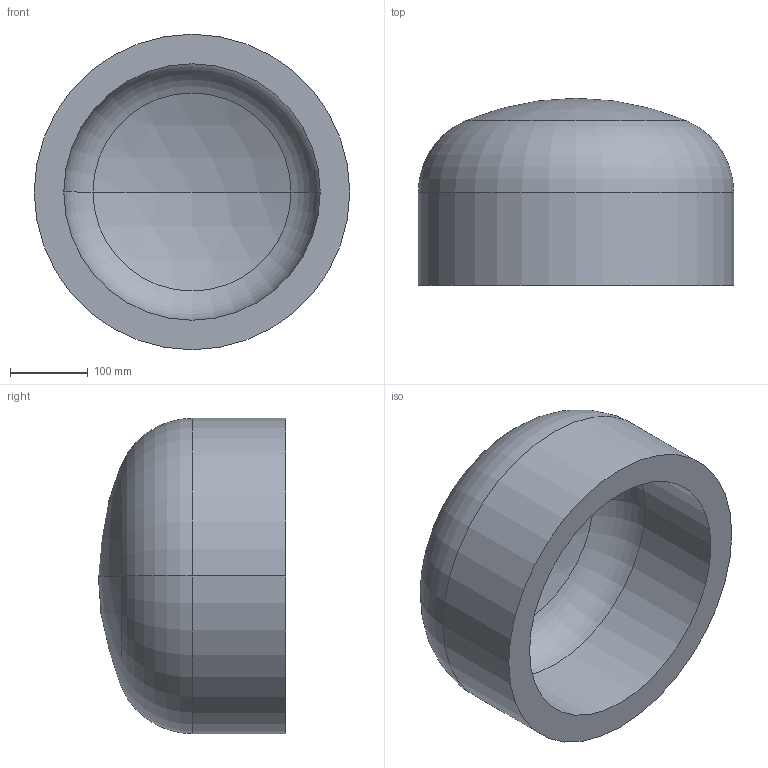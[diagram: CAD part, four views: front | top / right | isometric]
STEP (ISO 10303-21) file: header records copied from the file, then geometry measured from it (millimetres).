
FILE_DESCRIPTION (( 'STEP AP203' ), '1' );
FILE_NAME ('DIN 28013 Korbbogenform_-_Boden DIN 28013 - 406,4 x 120 - I - s=38.step', '2016-07-01T07:50:44', ( '' ), ( '' ), 'SwSTEP 2.0', 'SolidWorks 2013', '' );
FILE_SCHEMA (( 'CONFIG_CONTROL_DESIGN' ));
Length unit declared in the file: millimetre
Products named in the file (1): DIN 28013 Korbbogenform_-_Boden DIN 28013 - 406,4 x 120 - I - s=38
Bounding box: 406.4 x 241.09 x 406.4 mm (x, y, z)
Volume: 11343523.5 mm3; surface area: 644031.6 mm2
Topology: 1 solids, 1 shells, 13 faces, 24 edges, 14 vertices
Faces by surface type: torus 4, cylinder 4, sphere 4, plane 1
Entity records: 407 total; most frequent: DIRECTION 72, CARTESIAN_POINT 52, ORIENTED_EDGE 48, AXIS2_PLACEMENT_3D 34, EDGE_CURVE 24, CIRCLE 20, VERTEX_POINT 14, EDGE_LOOP 14
